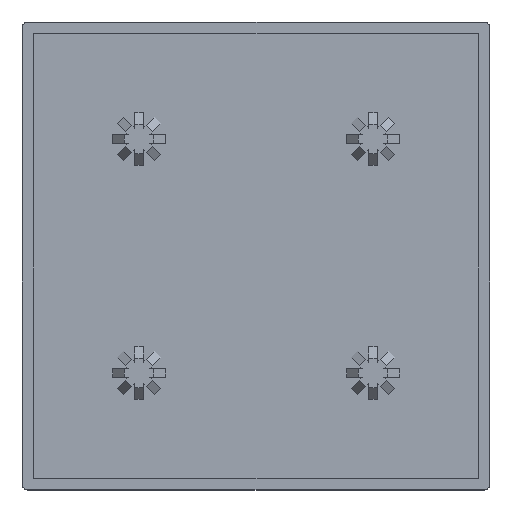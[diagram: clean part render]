
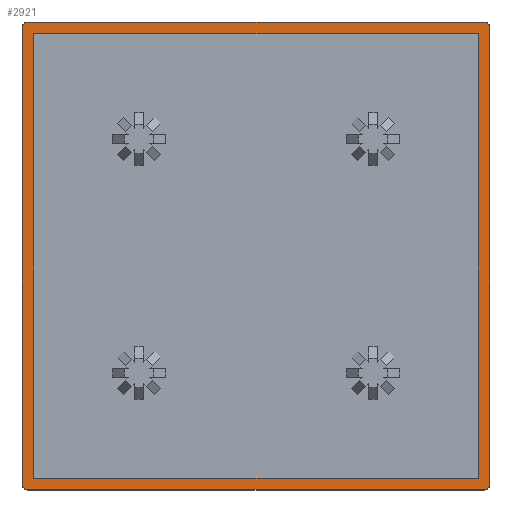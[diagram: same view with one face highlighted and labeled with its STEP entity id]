
A CAD part, top view. The second image highlights one B-rep face of the part: STEP entity #2921.
In plain terms, the highlighted planar face has unit normal (0, 0, 1).
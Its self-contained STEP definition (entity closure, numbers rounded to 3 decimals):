
#13=FACE_BOUND($,#262,.T.);
#14=FACE_BOUND($,#263,.T.);
#20=CIRCLE($,#3064,1.);
#22=CIRCLE($,#3068,1.);
#24=CIRCLE($,#3072,1.);
#26=CIRCLE($,#3076,1.);
#262=EDGE_LOOP($,(#2305,#2306,#2307,#2308));
#263=EDGE_LOOP($,(#2309,#2310,#2311,#2312,#2313,#2314,#2315,#2316));
#624=LINE($,#4463,#1036);
#628=LINE($,#4470,#1040);
#630=LINE($,#4475,#1042);
#633=LINE($,#4479,#1045);
#636=LINE($,#4491,#1048);
#640=LINE($,#4503,#1052);
#644=LINE($,#4515,#1056);
#648=LINE($,#4526,#1060);
#1036=VECTOR($,#3586,76.);
#1040=VECTOR($,#3592,76.);
#1042=VECTOR($,#3596,76.);
#1045=VECTOR($,#3601,76.);
#1048=VECTOR($,#3612,78.);
#1052=VECTOR($,#3624,78.);
#1056=VECTOR($,#3636,78.);
#1060=VECTOR($,#3648,78.);
#1379=VERTEX_POINT($,#4460);
#1380=VERTEX_POINT($,#4462);
#1382=VERTEX_POINT($,#4468);
#1384=VERTEX_POINT($,#4474);
#1385=VERTEX_POINT($,#4481);
#1386=VERTEX_POINT($,#4482);
#1389=VERTEX_POINT($,#4490);
#1391=VERTEX_POINT($,#4496);
#1393=VERTEX_POINT($,#4502);
#1395=VERTEX_POINT($,#4508);
#1397=VERTEX_POINT($,#4514);
#1399=VERTEX_POINT($,#4520);
#1728=EDGE_CURVE($,#1380,#1379,#624,.T.);
#1732=EDGE_CURVE($,#1379,#1382,#628,.T.);
#1734=EDGE_CURVE($,#1384,#1380,#630,.T.);
#1737=EDGE_CURVE($,#1382,#1384,#633,.T.);
#1738=EDGE_CURVE($,#1385,#1386,#20,.T.);
#1742=EDGE_CURVE($,#1386,#1389,#636,.T.);
#1745=EDGE_CURVE($,#1389,#1391,#22,.T.);
#1748=EDGE_CURVE($,#1391,#1393,#640,.T.);
#1751=EDGE_CURVE($,#1393,#1395,#24,.T.);
#1754=EDGE_CURVE($,#1395,#1397,#644,.T.);
#1757=EDGE_CURVE($,#1397,#1399,#26,.T.);
#1760=EDGE_CURVE($,#1399,#1385,#648,.T.);
#2305=ORIENTED_EDGE($,*,*,#1734,.T.);
#2306=ORIENTED_EDGE($,*,*,#1728,.T.);
#2307=ORIENTED_EDGE($,*,*,#1732,.T.);
#2308=ORIENTED_EDGE($,*,*,#1737,.T.);
#2309=ORIENTED_EDGE($,*,*,#1738,.F.);
#2310=ORIENTED_EDGE($,*,*,#1760,.F.);
#2311=ORIENTED_EDGE($,*,*,#1757,.F.);
#2312=ORIENTED_EDGE($,*,*,#1754,.F.);
#2313=ORIENTED_EDGE($,*,*,#1751,.F.);
#2314=ORIENTED_EDGE($,*,*,#1748,.F.);
#2315=ORIENTED_EDGE($,*,*,#1745,.F.);
#2316=ORIENTED_EDGE($,*,*,#1742,.F.);
#2774=PLANE($,#3079);
#2921=ADVANCED_FACE($,(#13,#14),#2774,.T.);
#3064=AXIS2_PLACEMENT_3D($,#4483,#3604,#3605);
#3068=AXIS2_PLACEMENT_3D($,#4497,#3617,#3618);
#3072=AXIS2_PLACEMENT_3D($,#4509,#3629,#3630);
#3076=AXIS2_PLACEMENT_3D($,#4521,#3641,#3642);
#3079=AXIS2_PLACEMENT_3D($,#4528,#3650,#3651);
#3586=DIRECTION($,(1.,0.,0.));
#3592=DIRECTION($,(0.,-1.,0.));
#3596=DIRECTION($,(0.,1.,0.));
#3601=DIRECTION($,(-1.,0.,0.));
#3604=DIRECTION('center_axis',(0.,0.,-1.));
#3605=DIRECTION('ref_axis',(-1.,0.,0.));
#3612=DIRECTION($,(0.,1.,0.));
#3617=DIRECTION('center_axis',(0.,0.,-1.));
#3618=DIRECTION('ref_axis',(0.,1.,0.));
#3624=DIRECTION($,(1.,0.,0.));
#3629=DIRECTION('center_axis',(0.,0.,-1.));
#3630=DIRECTION('ref_axis',(1.,0.,0.));
#3636=DIRECTION($,(0.,-1.,0.));
#3641=DIRECTION('center_axis',(0.,0.,-1.));
#3642=DIRECTION('ref_axis',(0.,-1.,0.));
#3648=DIRECTION($,(-1.,0.,0.));
#3650=DIRECTION('center_axis',(0.,0.,1.));
#3651=DIRECTION('ref_axis',(1.,0.,0.));
#4460=CARTESIAN_POINT('',(78.071,78.137,3.));
#4462=CARTESIAN_POINT('',(2.071,78.137,3.));
#4463=CARTESIAN_POINT($,(21.071,78.137,3.));
#4468=CARTESIAN_POINT('',(78.071,2.137,3.));
#4470=CARTESIAN_POINT($,(78.071,59.137,3.));
#4474=CARTESIAN_POINT('',(2.071,2.137,3.));
#4475=CARTESIAN_POINT($,(2.071,21.137,3.));
#4479=CARTESIAN_POINT($,(59.071,2.137,3.));
#4481=CARTESIAN_POINT('',(1.071,0.137,3.));
#4482=CARTESIAN_POINT('',(0.071,1.137,3.));
#4483=CARTESIAN_POINT('Origin',(1.071,1.137,3.));
#4490=CARTESIAN_POINT('',(0.071,79.137,3.));
#4491=CARTESIAN_POINT($,(0.071,79.137,3.));
#4496=CARTESIAN_POINT('',(1.071,80.137,3.));
#4497=CARTESIAN_POINT('Origin',(1.071,79.137,3.));
#4502=CARTESIAN_POINT('',(79.071,80.137,3.));
#4503=CARTESIAN_POINT($,(79.071,80.137,3.));
#4508=CARTESIAN_POINT('',(80.071,79.137,3.));
#4509=CARTESIAN_POINT('Origin',(79.071,79.137,3.));
#4514=CARTESIAN_POINT('',(80.071,1.137,3.));
#4515=CARTESIAN_POINT($,(80.071,1.137,3.));
#4520=CARTESIAN_POINT('',(79.071,0.137,3.));
#4521=CARTESIAN_POINT('Origin',(79.071,1.137,3.));
#4526=CARTESIAN_POINT($,(1.071,0.137,3.));
#4528=CARTESIAN_POINT('Origin',(40.071,40.137,3.));
